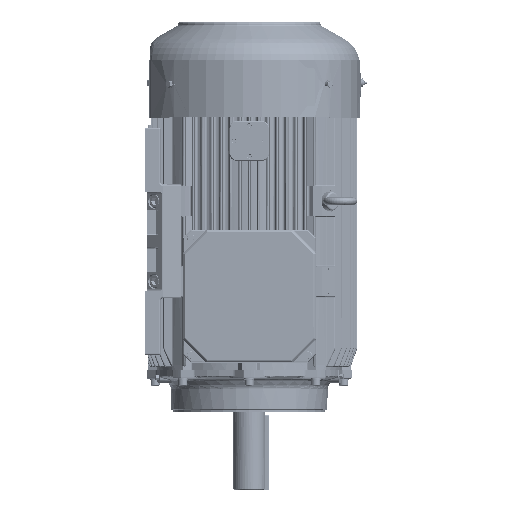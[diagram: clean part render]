
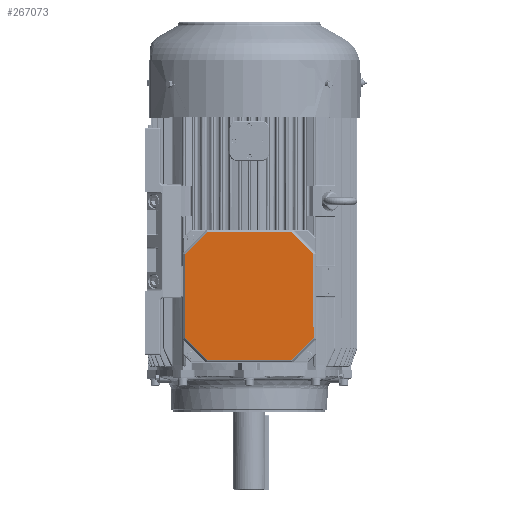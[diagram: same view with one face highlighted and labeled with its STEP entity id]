
A CAD part, top view. The second image highlights one B-rep face of the part: STEP entity #267073.
In plain terms, the highlighted planar face has unit normal (0, 0, 1).
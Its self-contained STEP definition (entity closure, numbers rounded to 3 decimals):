
#20592=LINE('',#425502,#37591);
#20594=LINE('',#425522,#37593);
#20597=LINE('',#425543,#37596);
#20598=LINE('',#425545,#37597);
#20599=LINE('',#425547,#37598);
#20600=LINE('',#425548,#37599);
#20601=LINE('',#425549,#37600);
#20602=LINE('',#425550,#37601);
#37591=VECTOR('',#317258,1000.);
#37593=VECTOR('',#317282,1000.);
#37596=VECTOR('',#317307,1000.);
#37597=VECTOR('',#317310,1000.);
#37598=VECTOR('',#317311,1000.);
#37599=VECTOR('',#317312,1000.);
#37600=VECTOR('',#317313,1000.);
#37601=VECTOR('',#317314,1000.);
#77763=ORIENTED_EDGE('',*,*,#118373,.T.);
#77764=ORIENTED_EDGE('',*,*,#118374,.T.);
#77765=ORIENTED_EDGE('',*,*,#118353,.T.);
#77766=ORIENTED_EDGE('',*,*,#118375,.T.);
#77767=ORIENTED_EDGE('',*,*,#118362,.T.);
#77768=ORIENTED_EDGE('',*,*,#118376,.T.);
#77769=ORIENTED_EDGE('',*,*,#118372,.T.);
#77770=ORIENTED_EDGE('',*,*,#118377,.T.);
#118353=EDGE_CURVE('',#140402,#140405,#20592,.T.);
#118362=EDGE_CURVE('',#140409,#140412,#20594,.T.);
#118372=EDGE_CURVE('',#140413,#140419,#20597,.T.);
#118373=EDGE_CURVE('',#140420,#140397,#20598,.T.);
#118374=EDGE_CURVE('',#140397,#140402,#20599,.T.);
#118375=EDGE_CURVE('',#140405,#140409,#20600,.T.);
#118376=EDGE_CURVE('',#140412,#140413,#20601,.T.);
#118377=EDGE_CURVE('',#140419,#140420,#20602,.T.);
#140397=VERTEX_POINT('',#425483);
#140402=VERTEX_POINT('',#425493);
#140405=VERTEX_POINT('',#425501);
#140409=VERTEX_POINT('',#425513);
#140412=VERTEX_POINT('',#425521);
#140413=VERTEX_POINT('',#425526);
#140419=VERTEX_POINT('',#425542);
#140420=VERTEX_POINT('',#425546);
#156610=EDGE_LOOP('',(#77763,#77764,#77765,#77766,#77767,#77768,#77769,
#77770));
#170716=FACE_BOUND('',#156610,.T.);
#179829=PLANE('',#283265);
#267073=ADVANCED_FACE('',(#170716),#179829,.T.);
#283265=AXIS2_PLACEMENT_3D('',#425544,#317308,#317309);
#317258=DIRECTION('',(-0.707,0.707,0.));
#317282=DIRECTION('',(-0.707,-0.707,0.));
#317307=DIRECTION('',(0.707,-0.707,0.));
#317308=DIRECTION('',(0.,0.,1.));
#317309=DIRECTION('',(0.,1.,0.));
#317310=DIRECTION('',(0.707,0.707,0.));
#317311=DIRECTION('',(0.,1.,0.));
#317312=DIRECTION('',(-1.,0.,0.));
#317313=DIRECTION('',(0.,-1.,0.));
#317314=DIRECTION('',(1.,0.,0.));
#425483=CARTESIAN_POINT('',(172.169,85.958,489.556));
#425493=CARTESIAN_POINT('',(172.137,310.129,489.556));
#425501=CARTESIAN_POINT('',(112.533,369.715,489.556));
#425502=CARTESIAN_POINT('',(142.339,339.918,489.556));
#425513=CARTESIAN_POINT('',(-111.621,369.683,489.556));
#425521=CARTESIAN_POINT('',(-171.207,310.079,489.556));
#425522=CARTESIAN_POINT('',(-318.892,162.351,489.556));
#425526=CARTESIAN_POINT('',(-171.174,85.908,489.556));
#425542=CARTESIAN_POINT('',(-111.579,26.331,489.556));
#425543=CARTESIAN_POINT('',(-141.377,56.119,489.556));
#425544=CARTESIAN_POINT('',(-176.993,20.493,489.556));
#425545=CARTESIAN_POINT('',(-35.093,-121.365,489.556));
#425546=CARTESIAN_POINT('',(112.592,26.363,489.556));
#425547=CARTESIAN_POINT('',(172.179,20.544,489.556));
#425548=CARTESIAN_POINT('',(-177.044,369.673,489.556));
#425549=CARTESIAN_POINT('',(-171.164,20.494,489.556));
#425550=CARTESIAN_POINT('',(-176.994,26.321,489.556));
